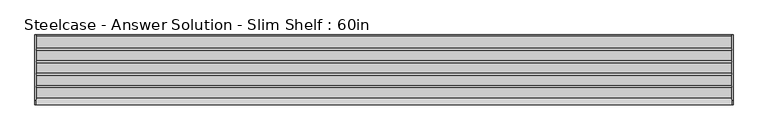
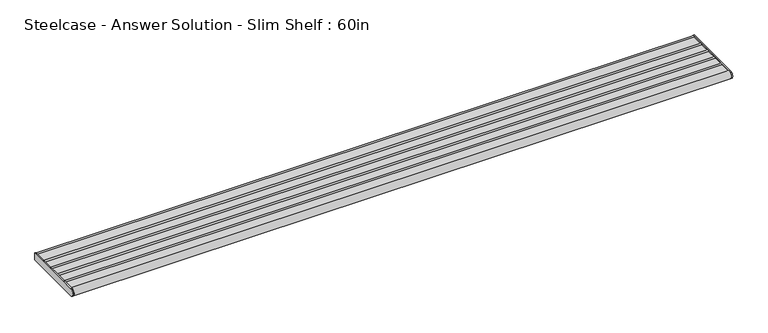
"""IFC4 building model written with IfcOpenShell, lengths in millimetres: furniture geometry, Steelcase - Answer Solution - Slim Shelf : 60in."""

from ifc_helpers import new_model, si_unit, point, frame, frame_2d, origin, place, context, project, spatial, polyline, circle_curve, trimmed, segment, composite_curve, outline, extrude, source, transform, mapped, element, save


def steelcase_answer_solution_slim_shelf_60in_fd3c85a9(model_context):
    return source(origin(), model_context, "Body", "SweptSolid", [
        extrude(outline(composite_curve([segment(polyline([(-29.2099994, 928.482716), (-2.2859999, 928.482716)]), True, "CONTINUOUS"), segment(trimmed(circle_curve(frame_2d((1e-07, 928.482716)), 2.2860001), [point((-2.2859999, 928.482716))], [point((0.0, 930.7687161))], False, "CARTESIAN"), True, "CONTINUOUS"), segment(polyline([(0.0, 930.7687161), (0.0, 914.4), (-143.9753135, 914.4)]), True, "CONTINUOUS"), segment(trimmed(circle_curve(frame_2d((-143.9753135, 922.8328065)), 8.4328065), [point((-143.9753135, 914.4))], [point((-137.7150621, 928.482716))], False, "CARTESIAN"), True, "CONTINUOUS"), segment(polyline([(-137.7150621, 928.482716), (-114.7063978, 928.482716)]), True, "CONTINUOUS"), segment(trimmed(circle_curve(frame_2d((-112.4204, 928.482716)), 2.2859978), [point((-114.7063978, 928.482716))], [point((-110.1344022, 928.482716))], False, "CARTESIAN"), True, "CONTINUOUS"), segment(polyline([(-110.1344022, 928.482716), (-87.7315999, 928.482716)]), True, "CONTINUOUS"), segment(trimmed(circle_curve(frame_2d((-85.4456021, 928.482716)), 2.2859978), [point((-87.7315999, 928.482716))], [point((-83.1596043, 928.482716))], False, "CARTESIAN"), True, "CONTINUOUS"), segment(polyline([(-83.1596043, 928.482716), (-60.756802, 928.482716)]), True, "CONTINUOUS"), segment(trimmed(circle_curve(frame_2d((-58.4708019, 928.482716)), 2.2860001), [point((-60.756802, 928.482716))], [point((-56.1848018, 928.482716))], False, "CARTESIAN"), True, "CONTINUOUS"), segment(polyline([(-56.1848018, 928.482716), (-33.7819996, 928.482716)]), True, "CONTINUOUS"), segment(trimmed(circle_curve(frame_2d((-31.4959995, 928.482716)), 2.2860001), [point((-33.7819996, 928.482716))], [point((-29.2099994, 928.482716))], False, "CARTESIAN"), True, "CONTINUOUS")], self_intersect=False)), frame((2.7431999, 0.0, 0.0), z_axis=(1.0, 0.0, 0.0), x_axis=(0.0, 1.0, 0.0)), (0.0, 0.0, 1.0), 1518.4120001),
        extrude(outline(composite_curve([segment(polyline([(-143.9753135, 931.265613), (0.0, 931.265613), (0.0, 914.4), (-143.9753135, 914.4)]), True, "CONTINUOUS"), segment(trimmed(circle_curve(frame_2d((-143.9753135, 922.8328065)), 8.4328065), [point((-143.9753135, 914.4))], [point((-143.9753135, 931.265613))], False, "CARTESIAN"), True, "CONTINUOUS")], self_intersect=False)), frame((1521.1552, 0.0, 0.0), z_axis=(1.0, 0.0, 0.0), x_axis=(0.0, 1.0, 0.0)), (0.0, 0.0, 1.0), 2.8448),
        extrude(outline(composite_curve([segment(polyline([(-143.9753135, 931.265613), (0.0, 931.265613), (0.0, 914.4), (-143.9753135, 914.4)]), True, "CONTINUOUS"), segment(trimmed(circle_curve(frame_2d((-143.9753135, 922.8328065)), 8.4328065), [point((-143.9753135, 914.4))], [point((-143.9753135, 931.265613))], False, "CARTESIAN"), True, "CONTINUOUS")], self_intersect=False)), frame((0.0, 0.0, 0.0), z_axis=(1.0, 0.0, 0.0), x_axis=(0.0, 1.0, 0.0)), (0.0, 0.0, 1.0), 2.7431999),
    ])


if __name__ == "__main__":
    model = new_model("IFC4")
    model_context = context("Model", 3, world=origin())
    ifc_project = project(units=[si_unit("LENGTHUNIT", "METRE", prefix="MILLI")], contexts=[model_context])
    site = spatial("IfcSite", under=ifc_project)
    building = spatial("IfcBuilding", under=site)
    placement = place(None, origin())
    steelcase_answer_solution_slim_shelf_60in_shape = steelcase_answer_solution_slim_shelf_60in_fd3c85a9(model_context)
    element("IfcFurniture", 1, ObjectType="Steelcase - Answer Solution - Slim Shelf : 60in", at=placement, inside=building, context=model_context, shape_type="MappedRepresentation", body=[
        mapped(steelcase_answer_solution_slim_shelf_60in_shape, transform((0.0, 0.0, 0.0), x_axis=(1.0, 0.0, 0.0), y_axis=(0.0, 1.0, 0.0), z_axis=(0.0, 0.0, 1.0))),
    ])
    save(model, "model.ifc")
